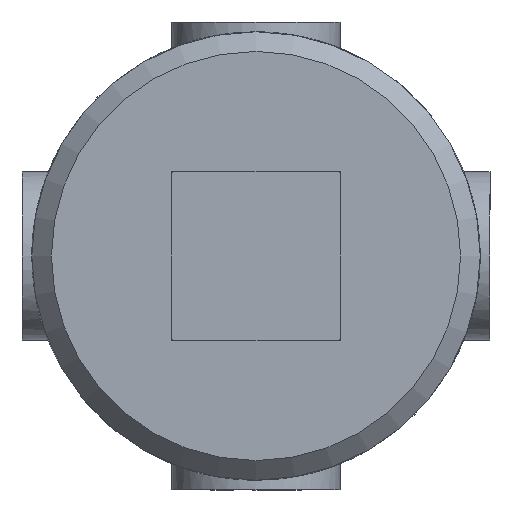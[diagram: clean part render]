
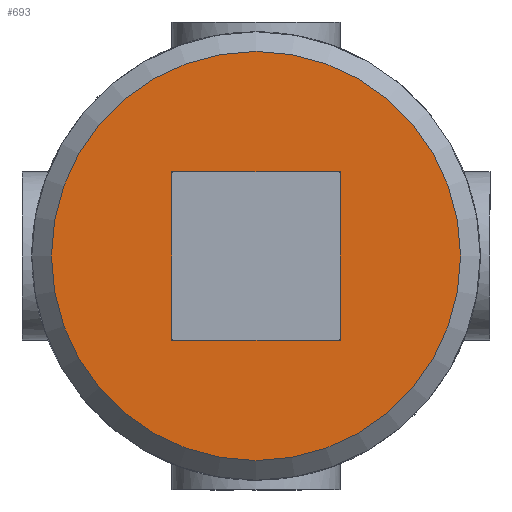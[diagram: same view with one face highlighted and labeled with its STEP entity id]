
A CAD part, front view. The second image highlights one B-rep face of the part: STEP entity #693.
In plain terms, the highlighted planar face has unit normal (0, -1, 0).
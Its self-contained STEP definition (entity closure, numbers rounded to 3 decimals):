
#80=LINE('',#1057,#112);
#82=LINE('',#1065,#114);
#84=LINE('',#1073,#116);
#86=LINE('',#1079,#118);
#112=VECTOR('',#865,6.);
#114=VECTOR('',#869,6.);
#116=VECTOR('',#873,6.);
#118=VECTOR('',#877,6.);
#145=PLANE('',#753);
#170=FACE_BOUND('',#259,.T.);
#200=FACE_OUTER_BOUND('',#258,.T.);
#258=EDGE_LOOP('',(#554));
#259=EDGE_LOOP('',(#555,#556,#557,#558));
#303=CIRCLE('',#751,7.3);
#341=VERTEX_POINT('',#1054);
#342=VERTEX_POINT('',#1056);
#344=VERTEX_POINT('',#1064);
#346=VERTEX_POINT('',#1072);
#348=VERTEX_POINT('',#1083);
#413=EDGE_CURVE('',#342,#341,#80,.T.);
#416=EDGE_CURVE('',#344,#342,#82,.T.);
#419=EDGE_CURVE('',#346,#344,#84,.T.);
#422=EDGE_CURVE('',#341,#346,#86,.T.);
#424=EDGE_CURVE('',#348,#348,#303,.T.);
#554=ORIENTED_EDGE('',*,*,#424,.F.);
#555=ORIENTED_EDGE('',*,*,#413,.T.);
#556=ORIENTED_EDGE('',*,*,#422,.T.);
#557=ORIENTED_EDGE('',*,*,#419,.T.);
#558=ORIENTED_EDGE('',*,*,#416,.T.);
#693=ADVANCED_FACE('',(#200,#170),#145,.F.);
#751=AXIS2_PLACEMENT_3D('',#1084,#882,#883);
#753=AXIS2_PLACEMENT_3D('',#1252,#890,#891);
#865=DIRECTION('',(-1.,0.,0.));
#869=DIRECTION('',(0.,0.,-1.));
#873=DIRECTION('',(1.,0.,0.));
#877=DIRECTION('',(0.,0.,1.));
#882=DIRECTION('center_axis',(0.,1.,0.));
#883=DIRECTION('ref_axis',(1.,0.,0.));
#890=DIRECTION('center_axis',(0.,1.,0.));
#891=DIRECTION('ref_axis',(0.,0.,1.));
#1054=CARTESIAN_POINT('',(-3.,-21.,-3.));
#1056=CARTESIAN_POINT('',(3.,-21.,-3.));
#1057=CARTESIAN_POINT('',(1.5,-21.,-3.));
#1064=CARTESIAN_POINT('',(3.,-21.,3.));
#1065=CARTESIAN_POINT('',(3.,-21.,1.5));
#1072=CARTESIAN_POINT('',(-3.,-21.,3.));
#1073=CARTESIAN_POINT('',(-1.5,-21.,3.));
#1079=CARTESIAN_POINT('',(-3.,-21.,-1.5));
#1083=CARTESIAN_POINT('',(-7.3,-21.,0.));
#1084=CARTESIAN_POINT('Origin',(0.,-21.,0.));
#1252=CARTESIAN_POINT('Origin',(0.,-21.,0.));
